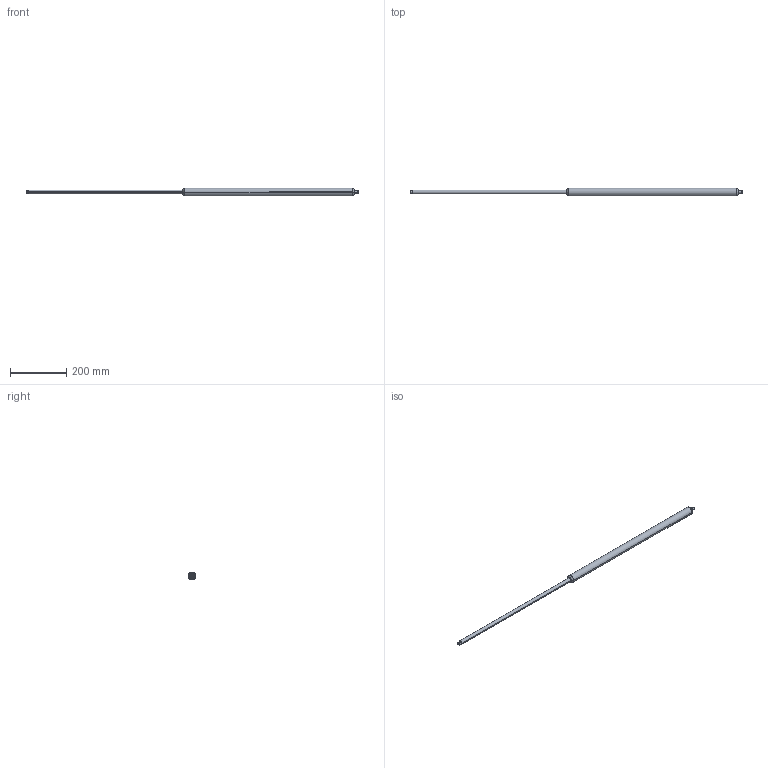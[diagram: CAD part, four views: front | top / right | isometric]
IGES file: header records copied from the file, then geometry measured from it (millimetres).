
Start section: SolidWorks IGES file using analytic representation for surfaces
Global section: file name: Z:\7-3D図面\01.図面\01.L\外形図\Ｇ／Ｓ\20170710(最新)\カタログ用\IGES\FGS-28-550-BB.IGS; native system: SolidWorks 2016; preprocessor: SolidWorks 2016; author: flgijutsu; date: 170710.171829; units: millimetre
Bounding box: 1184 x 28 x 28 mm (x, y, z)
Surface area: 79676.7 mm2 (no closed solid volume)
Topology: 0 solids, 0 shells, 31 faces, 360 edges, 360 vertices
Faces by surface type: revolution 22, bspline 9
